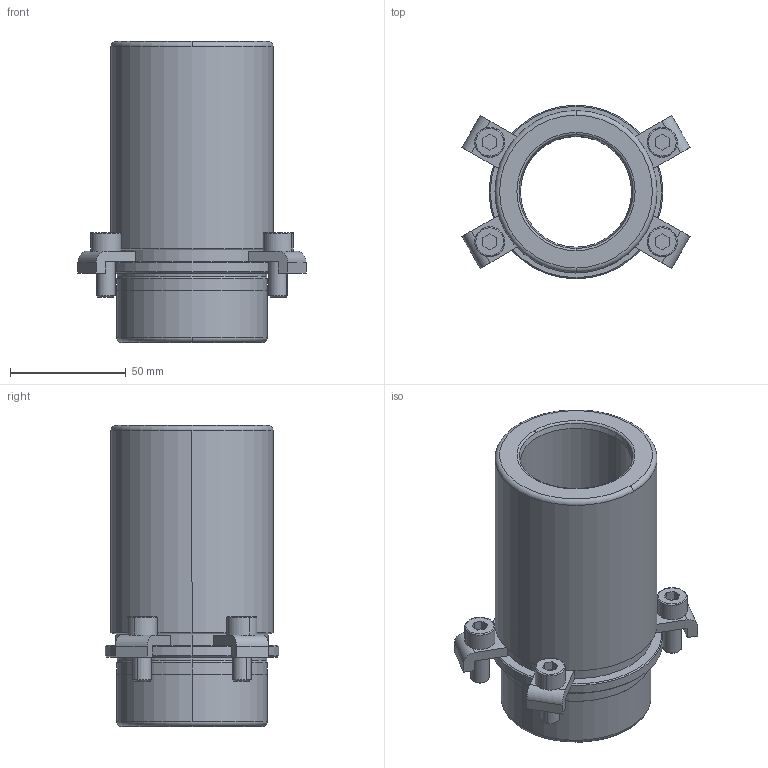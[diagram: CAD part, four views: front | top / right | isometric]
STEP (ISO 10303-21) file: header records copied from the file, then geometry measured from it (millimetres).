
FILE_DESCRIPTION((''),'2;1');
FILE_NAME('B40_040_100.stp','2009-01-05T16:38:40',(''),(''),'Mechanical Desktop 2009','Mechanical Desktop 2009',', , ');
FILE_SCHEMA(('CONFIG_CONTROL_DESIGN'));
Length unit declared in the file: millimetre
Products named in the file (2): Product; blmdl1
Assembly tree (1 placements, depth 2):
  Product
    blmdl1
Bounding box: 98.54 x 75 x 130 mm (x, y, z)
Volume: 262258.1 mm3; surface area: 61931.9 mm2
Topology: 9 solids, 9 shells, 173 faces, 422 edges, 278 vertices
Faces by surface type: plane 73, cylinder 50, cone 22, torus 16, bspline 12
Entity records: 5767 total; most frequent: CARTESIAN_POINT 1403, DIRECTION 966, ORIENTED_EDGE 844, EDGE_CURVE 422, AXIS2_PLACEMENT_3D 381, VERTEX_POINT 278, CIRCLE 218, VECTOR 204
